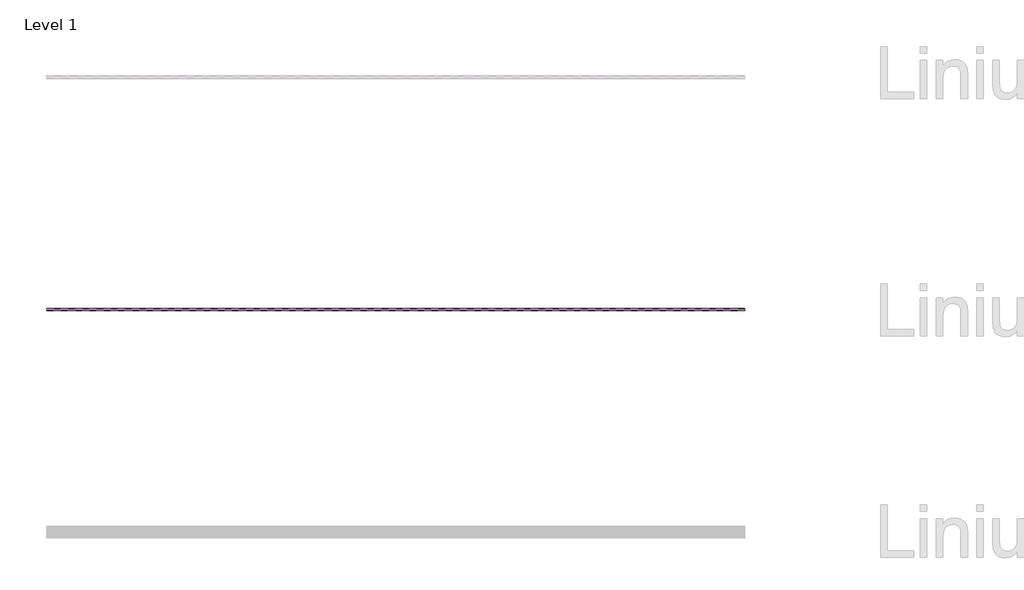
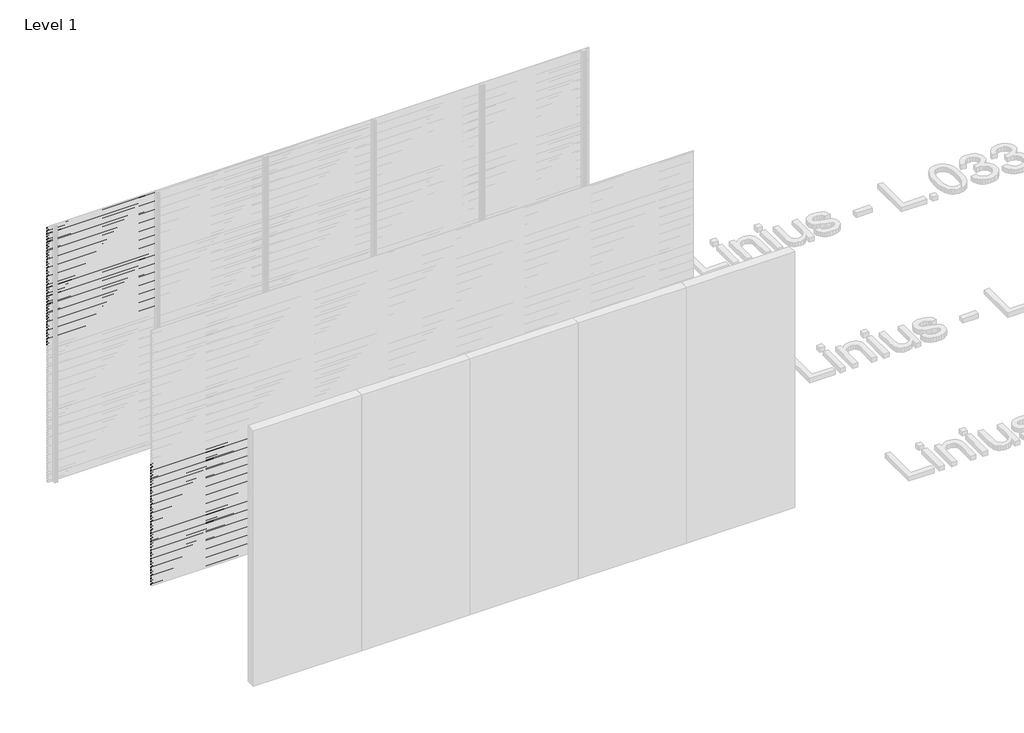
# One storey, part 74 of 507: 85 proxies.
"""IFC4 building model written with IfcOpenShell, lengths in millimetres."""

from ifc_helpers import new_model, si_unit, frame, origin, place, context, project, spatial, polyline, outline, extrude, element, save

model = new_model("IFC4")

# Units and contexts
model_context = context("Model", 3, world=origin())
ifc_project = project(units=[si_unit("LENGTHUNIT", "METRE", prefix="MILLI")], contexts=[model_context])

# Site, building, storey
site = spatial("IfcSite", under=ifc_project)
building = spatial("IfcBuilding", under=site)
storey = spatial("IfcBuildingStorey", under=building, Name="Level 1", Elevation=0.0)

# Proxies
placement = place(None, origin())
element("IfcBuildingElementProxy", 1, Name="Wall Sweeps", at=placement, inside=storey, context=model_context, shape_type="SweptSolid", body=[
    extrude(outline(polyline([(59003.4540136, 2973.0), (59003.4540136, 2959.5), (59002.2040136, 2960.2216933), (59002.2040136, 2972.2782281), (58983.0540136, 2983.3345698), (58983.0540136, 2997.0), (58984.3040136, 2997.0), (58984.3040136, 2984.0562577), (59003.4540136, 2973.0)])), frame((44966.6208097, 0.0, 0.0), z_axis=(1.0, 0.0, 0.0), x_axis=(0.0, 1.0, 0.0)), (0.0, 0.0, 1.0), 1200.0000002),
])
element("IfcBuildingElementProxy", 2, Name="Wall Sweeps", at=placement, inside=storey, context=model_context, shape_type="SweptSolid", body=[
    extrude(outline(polyline([(59003.4540136, 2939.7), (59003.4540136, 2926.2), (59002.2040136, 2926.9216933), (59002.2040136, 2938.9782281), (58983.0540136, 2950.0345698), (58983.0540136, 2963.7), (58984.3040136, 2963.7), (58984.3040136, 2950.7562577), (59003.4540136, 2939.7)])), frame((44966.6208097, 0.0, 0.0), z_axis=(1.0, 0.0, 0.0), x_axis=(0.0, 1.0, 0.0)), (0.0, 0.0, 1.0), 1200.0000002),
])
element("IfcBuildingElementProxy", 3, Name="Wall Sweeps", at=placement, inside=storey, context=model_context, shape_type="SweptSolid", body=[
    extrude(outline(polyline([(59003.4540136, 2906.4), (59003.4540136, 2892.9), (59002.2040136, 2893.6216933), (59002.2040136, 2905.6782281), (58983.0540136, 2916.7345698), (58983.0540136, 2930.4), (58984.3040136, 2930.4), (58984.3040136, 2917.4562577), (59003.4540136, 2906.4)])), frame((44966.6208097, 0.0, 0.0), z_axis=(1.0, 0.0, 0.0), x_axis=(0.0, 1.0, 0.0)), (0.0, 0.0, 1.0), 1200.0000002),
])
element("IfcBuildingElementProxy", 4, Name="Wall Sweeps", at=placement, inside=storey, context=model_context, shape_type="SweptSolid", body=[
    extrude(outline(polyline([(59003.4540136, 2873.1), (59003.4540136, 2859.6), (59002.2040136, 2860.3216933), (59002.2040136, 2872.3782281), (58983.0540136, 2883.4345698), (58983.0540136, 2897.1), (58984.3040136, 2897.1), (58984.3040136, 2884.1562577), (59003.4540136, 2873.1)])), frame((44966.6208097, 0.0, 0.0), z_axis=(1.0, 0.0, 0.0), x_axis=(0.0, 1.0, 0.0)), (0.0, 0.0, 1.0), 1200.0000002),
])
element("IfcBuildingElementProxy", 5, Name="Wall Sweeps", at=placement, inside=storey, context=model_context, shape_type="SweptSolid", body=[
    extrude(outline(polyline([(59003.4540136, 2839.8), (59003.4540136, 2826.3), (59002.2040136, 2827.0216933), (59002.2040136, 2839.0782281), (58983.0540136, 2850.1345698), (58983.0540136, 2863.8), (58984.3040136, 2863.8), (58984.3040136, 2850.8562577), (59003.4540136, 2839.8)])), frame((44966.6208097, 0.0, 0.0), z_axis=(1.0, 0.0, 0.0), x_axis=(0.0, 1.0, 0.0)), (0.0, 0.0, 1.0), 1200.0000002),
])
element("IfcBuildingElementProxy", 6, Name="Wall Sweeps", at=placement, inside=storey, context=model_context, shape_type="SweptSolid", body=[
    extrude(outline(polyline([(59003.4540136, 2806.5), (59003.4540136, 2793.0), (59002.2040136, 2793.7216933), (59002.2040136, 2805.7782281), (58983.0540136, 2816.8345698), (58983.0540136, 2830.5), (58984.3040136, 2830.5), (58984.3040136, 2817.5562577), (59003.4540136, 2806.5)])), frame((44966.6208097, 0.0, 0.0), z_axis=(1.0, 0.0, 0.0), x_axis=(0.0, 1.0, 0.0)), (0.0, 0.0, 1.0), 1200.0000002),
])
element("IfcBuildingElementProxy", 7, Name="Wall Sweeps", at=placement, inside=storey, context=model_context, shape_type="SweptSolid", body=[
    extrude(outline(polyline([(59003.4540136, 2773.2), (59003.4540136, 2759.7), (59002.2040136, 2760.4216933), (59002.2040136, 2772.4782281), (58983.0540136, 2783.5345698), (58983.0540136, 2797.2), (58984.3040136, 2797.2), (58984.3040136, 2784.2562577), (59003.4540136, 2773.2)])), frame((44966.6208097, 0.0, 0.0), z_axis=(1.0, 0.0, 0.0), x_axis=(0.0, 1.0, 0.0)), (0.0, 0.0, 1.0), 1200.0000002),
])
element("IfcBuildingElementProxy", 8, Name="Wall Sweeps", at=placement, inside=storey, context=model_context, shape_type="SweptSolid", body=[
    extrude(outline(polyline([(59003.4540136, 2739.9), (59003.4540136, 2726.4), (59002.2040136, 2727.1216933), (59002.2040136, 2739.1782281), (58983.0540136, 2750.2345698), (58983.0540136, 2763.9), (58984.3040136, 2763.9), (58984.3040136, 2750.9562577), (59003.4540136, 2739.9)])), frame((44966.6208097, 0.0, 0.0), z_axis=(1.0, 0.0, 0.0), x_axis=(0.0, 1.0, 0.0)), (0.0, 0.0, 1.0), 1200.0000002),
])
element("IfcBuildingElementProxy", 9, Name="Wall Sweeps", at=placement, inside=storey, context=model_context, shape_type="SweptSolid", body=[
    extrude(outline(polyline([(59003.4540136, 2706.6), (59003.4540136, 2693.1), (59002.2040136, 2693.8216933), (59002.2040136, 2705.8782281), (58983.0540136, 2716.9345698), (58983.0540136, 2730.6), (58984.3040136, 2730.6), (58984.3040136, 2717.6562577), (59003.4540136, 2706.6)])), frame((44966.6208097, 0.0, 0.0), z_axis=(1.0, 0.0, 0.0), x_axis=(0.0, 1.0, 0.0)), (0.0, 0.0, 1.0), 1200.0000002),
])
element("IfcBuildingElementProxy", 10, Name="Wall Sweeps", at=placement, inside=storey, context=model_context, shape_type="SweptSolid", body=[
    extrude(outline(polyline([(59003.4540136, 2673.3), (59003.4540136, 2659.8), (59002.2040136, 2660.5216933), (59002.2040136, 2672.5782281), (58983.0540136, 2683.6345698), (58983.0540136, 2697.3), (58984.3040136, 2697.3), (58984.3040136, 2684.3562577), (59003.4540136, 2673.3)])), frame((44966.6208097, 0.0, 0.0), z_axis=(1.0, 0.0, 0.0), x_axis=(0.0, 1.0, 0.0)), (0.0, 0.0, 1.0), 1200.0000002),
])
element("IfcBuildingElementProxy", 11, Name="Wall Sweeps", at=placement, inside=storey, context=model_context, shape_type="SweptSolid", body=[
    extrude(outline(polyline([(59003.4540136, 2640.0), (59003.4540136, 2626.5), (59002.2040136, 2627.2216933), (59002.2040136, 2639.2782281), (58983.0540136, 2650.3345698), (58983.0540136, 2664.0), (58984.3040136, 2664.0), (58984.3040136, 2651.0562577), (59003.4540136, 2640.0)])), frame((44966.6208097, 0.0, 0.0), z_axis=(1.0, 0.0, 0.0), x_axis=(0.0, 1.0, 0.0)), (0.0, 0.0, 1.0), 1200.0000002),
])
element("IfcBuildingElementProxy", 12, Name="Wall Sweeps", at=placement, inside=storey, context=model_context, shape_type="SweptSolid", body=[
    extrude(outline(polyline([(59003.4540136, 2606.7), (59003.4540136, 2593.2), (59002.2040136, 2593.9216933), (59002.2040136, 2605.9782281), (58983.0540136, 2617.0345698), (58983.0540136, 2630.7), (58984.3040136, 2630.7), (58984.3040136, 2617.7562577), (59003.4540136, 2606.7)])), frame((44966.6208097, 0.0, 0.0), z_axis=(1.0, 0.0, 0.0), x_axis=(0.0, 1.0, 0.0)), (0.0, 0.0, 1.0), 1200.0000002),
])
element("IfcBuildingElementProxy", 13, Name="Wall Sweeps", at=placement, inside=storey, context=model_context, shape_type="SweptSolid", body=[
    extrude(outline(polyline([(59003.4540136, 2573.4), (59003.4540136, 2559.9), (59002.2040136, 2560.6216933), (59002.2040136, 2572.6782281), (58983.0540136, 2583.7345698), (58983.0540136, 2597.4), (58984.3040136, 2597.4), (58984.3040136, 2584.4562577), (59003.4540136, 2573.4)])), frame((44966.6208097, 0.0, 0.0), z_axis=(1.0, 0.0, 0.0), x_axis=(0.0, 1.0, 0.0)), (0.0, 0.0, 1.0), 1200.0000002),
])
element("IfcBuildingElementProxy", 14, Name="Wall Sweeps", at=placement, inside=storey, context=model_context, shape_type="SweptSolid", body=[
    extrude(outline(polyline([(59003.4540136, 2540.1), (59003.4540136, 2526.6), (59002.2040136, 2527.3216933), (59002.2040136, 2539.3782281), (58983.0540136, 2550.4345698), (58983.0540136, 2564.1), (58984.3040136, 2564.1), (58984.3040136, 2551.1562577), (59003.4540136, 2540.1)])), frame((44966.6208097, 0.0, 0.0), z_axis=(1.0, 0.0, 0.0), x_axis=(0.0, 1.0, 0.0)), (0.0, 0.0, 1.0), 1200.0000002),
])
element("IfcBuildingElementProxy", 15, Name="Wall Sweeps", at=placement, inside=storey, context=model_context, shape_type="SweptSolid", body=[
    extrude(outline(polyline([(59003.4540136, 2506.8), (59003.4540136, 2493.3), (59002.2040136, 2494.0216933), (59002.2040136, 2506.0782281), (58983.0540136, 2517.1345698), (58983.0540136, 2530.8), (58984.3040136, 2530.8), (58984.3040136, 2517.8562577), (59003.4540136, 2506.8)])), frame((44966.6208097, 0.0, 0.0), z_axis=(1.0, 0.0, 0.0), x_axis=(0.0, 1.0, 0.0)), (0.0, 0.0, 1.0), 1200.0000002),
])
element("IfcBuildingElementProxy", 16, Name="Wall Sweeps", at=placement, inside=storey, context=model_context, shape_type="SweptSolid", body=[
    extrude(outline(polyline([(59003.4540136, 2473.5), (59003.4540136, 2460.0), (59002.2040136, 2460.7216933), (59002.2040136, 2472.7782281), (58983.0540136, 2483.8345698), (58983.0540136, 2497.5), (58984.3040136, 2497.5), (58984.3040136, 2484.5562577), (59003.4540136, 2473.5)])), frame((44966.6208097, 0.0, 0.0), z_axis=(1.0, 0.0, 0.0), x_axis=(0.0, 1.0, 0.0)), (0.0, 0.0, 1.0), 1200.0000002),
])
element("IfcBuildingElementProxy", 17, Name="Wall Sweeps", at=placement, inside=storey, context=model_context, shape_type="SweptSolid", body=[
    extrude(outline(polyline([(59003.4540136, 2440.2), (59003.4540136, 2426.7), (59002.2040136, 2427.4216933), (59002.2040136, 2439.4782281), (58983.0540136, 2450.5345698), (58983.0540136, 2464.2), (58984.3040136, 2464.2), (58984.3040136, 2451.2562577), (59003.4540136, 2440.2)])), frame((44966.6208097, 0.0, 0.0), z_axis=(1.0, 0.0, 0.0), x_axis=(0.0, 1.0, 0.0)), (0.0, 0.0, 1.0), 1200.0000002),
])
element("IfcBuildingElementProxy", 18, Name="Wall Sweeps", at=placement, inside=storey, context=model_context, shape_type="SweptSolid", body=[
    extrude(outline(polyline([(59003.4540136, 2406.9), (59003.4540136, 2393.4), (59002.2040136, 2394.1216933), (59002.2040136, 2406.1782281), (58983.0540136, 2417.2345698), (58983.0540136, 2430.9), (58984.3040136, 2430.9), (58984.3040136, 2417.9562577), (59003.4540136, 2406.9)])), frame((44966.6208097, 0.0, 0.0), z_axis=(1.0, 0.0, 0.0), x_axis=(0.0, 1.0, 0.0)), (0.0, 0.0, 1.0), 1200.0000002),
])
element("IfcBuildingElementProxy", 19, Name="Wall Sweeps", at=placement, inside=storey, context=model_context, shape_type="SweptSolid", body=[
    extrude(outline(polyline([(59003.4540136, 2373.6), (59003.4540136, 2360.1), (59002.2040136, 2360.8216933), (59002.2040136, 2372.8782281), (58983.0540136, 2383.9345698), (58983.0540136, 2397.6), (58984.3040136, 2397.6), (58984.3040136, 2384.6562577), (59003.4540136, 2373.6)])), frame((44966.6208097, 0.0, 0.0), z_axis=(1.0, 0.0, 0.0), x_axis=(0.0, 1.0, 0.0)), (0.0, 0.0, 1.0), 1200.0000002),
])
element("IfcBuildingElementProxy", 20, Name="Wall Sweeps", at=placement, inside=storey, context=model_context, shape_type="SweptSolid", body=[
    extrude(outline(polyline([(59003.4540136, 2340.3), (59003.4540136, 2326.8), (59002.2040136, 2327.5216933), (59002.2040136, 2339.5782281), (58983.0540136, 2350.6345698), (58983.0540136, 2364.3), (58984.3040136, 2364.3), (58984.3040136, 2351.3562577), (59003.4540136, 2340.3)])), frame((44966.6208097, 0.0, 0.0), z_axis=(1.0, 0.0, 0.0), x_axis=(0.0, 1.0, 0.0)), (0.0, 0.0, 1.0), 1200.0000002),
])
element("IfcBuildingElementProxy", 21, Name="Wall Sweeps", at=placement, inside=storey, context=model_context, shape_type="SweptSolid", body=[
    extrude(outline(polyline([(59003.4540136, 2307.0), (59003.4540136, 2293.5), (59002.2040136, 2294.2216933), (59002.2040136, 2306.2782281), (58983.0540136, 2317.3345698), (58983.0540136, 2331.0), (58984.3040136, 2331.0), (58984.3040136, 2318.0562577), (59003.4540136, 2307.0)])), frame((44966.6208097, 0.0, 0.0), z_axis=(1.0, 0.0, 0.0), x_axis=(0.0, 1.0, 0.0)), (0.0, 0.0, 1.0), 1200.0000002),
])
element("IfcBuildingElementProxy", 22, Name="Wall Sweeps", at=placement, inside=storey, context=model_context, shape_type="SweptSolid", body=[
    extrude(outline(polyline([(59003.4540136, 2273.7), (59003.4540136, 2260.2), (59002.2040136, 2260.9216933), (59002.2040136, 2272.9782281), (58983.0540136, 2284.0345698), (58983.0540136, 2297.7), (58984.3040136, 2297.7), (58984.3040136, 2284.7562577), (59003.4540136, 2273.7)])), frame((44966.6208097, 0.0, 0.0), z_axis=(1.0, 0.0, 0.0), x_axis=(0.0, 1.0, 0.0)), (0.0, 0.0, 1.0), 1200.0000002),
])
element("IfcBuildingElementProxy", 23, Name="Wall Sweeps", at=placement, inside=storey, context=model_context, shape_type="SweptSolid", body=[
    extrude(outline(polyline([(59003.4540136, 2240.4), (59003.4540136, 2226.9), (59002.2040136, 2227.6216933), (59002.2040136, 2239.6782281), (58983.0540136, 2250.7345698), (58983.0540136, 2264.4), (58984.3040136, 2264.4), (58984.3040136, 2251.4562577), (59003.4540136, 2240.4)])), frame((44966.6208097, 0.0, 0.0), z_axis=(1.0, 0.0, 0.0), x_axis=(0.0, 1.0, 0.0)), (0.0, 0.0, 1.0), 1200.0000002),
])
element("IfcBuildingElementProxy", 24, Name="Wall Sweeps", at=placement, inside=storey, context=model_context, shape_type="SweptSolid", body=[
    extrude(outline(polyline([(59003.4540136, 2207.1), (59003.4540136, 2193.6), (59002.2040136, 2194.3216933), (59002.2040136, 2206.3782281), (58983.0540136, 2217.4345698), (58983.0540136, 2231.1), (58984.3040136, 2231.1), (58984.3040136, 2218.1562577), (59003.4540136, 2207.1)])), frame((44966.6208097, 0.0, 0.0), z_axis=(1.0, 0.0, 0.0), x_axis=(0.0, 1.0, 0.0)), (0.0, 0.0, 1.0), 1200.0000002),
])
element("IfcBuildingElementProxy", 25, Name="Wall Sweeps", at=placement, inside=storey, context=model_context, shape_type="SweptSolid", body=[
    extrude(outline(polyline([(59003.4540136, 2173.8), (59003.4540136, 2160.3), (59002.2040136, 2161.0216933), (59002.2040136, 2173.0782281), (58983.0540136, 2184.1345698), (58983.0540136, 2197.8), (58984.3040136, 2197.8), (58984.3040136, 2184.8562577), (59003.4540136, 2173.8)])), frame((44966.6208097, 0.0, 0.0), z_axis=(1.0, 0.0, 0.0), x_axis=(0.0, 1.0, 0.0)), (0.0, 0.0, 1.0), 1200.0000002),
])
element("IfcBuildingElementProxy", 26, Name="Wall Sweeps", at=placement, inside=storey, context=model_context, shape_type="SweptSolid", body=[
    extrude(outline(polyline([(59003.4540136, 2140.5), (59003.4540136, 2127.0), (59002.2040136, 2127.7216933), (59002.2040136, 2139.7782281), (58983.0540136, 2150.8345698), (58983.0540136, 2164.5), (58984.3040136, 2164.5), (58984.3040136, 2151.5562577), (59003.4540136, 2140.5)])), frame((44966.6208097, 0.0, 0.0), z_axis=(1.0, 0.0, 0.0), x_axis=(0.0, 1.0, 0.0)), (0.0, 0.0, 1.0), 1200.0000002),
])
element("IfcBuildingElementProxy", 27, Name="Wall Sweeps", at=placement, inside=storey, context=model_context, shape_type="SweptSolid", body=[
    extrude(outline(polyline([(59003.4540136, 2107.2), (59003.4540136, 2093.7), (59002.2040136, 2094.4216933), (59002.2040136, 2106.4782281), (58983.0540136, 2117.5345698), (58983.0540136, 2131.2), (58984.3040136, 2131.2), (58984.3040136, 2118.2562577), (59003.4540136, 2107.2)])), frame((44966.6208097, 0.0, 0.0), z_axis=(1.0, 0.0, 0.0), x_axis=(0.0, 1.0, 0.0)), (0.0, 0.0, 1.0), 1200.0000002),
])
element("IfcBuildingElementProxy", 28, Name="Wall Sweeps", at=placement, inside=storey, context=model_context, shape_type="SweptSolid", body=[
    extrude(outline(polyline([(59003.4540136, 2073.9), (59003.4540136, 2060.4), (59002.2040136, 2061.1216933), (59002.2040136, 2073.1782281), (58983.0540136, 2084.2345698), (58983.0540136, 2097.9), (58984.3040136, 2097.9), (58984.3040136, 2084.9562577), (59003.4540136, 2073.9)])), frame((44966.6208097, 0.0, 0.0), z_axis=(1.0, 0.0, 0.0), x_axis=(0.0, 1.0, 0.0)), (0.0, 0.0, 1.0), 1200.0000002),
])
element("IfcBuildingElementProxy", 29, Name="Wall Sweeps", at=placement, inside=storey, context=model_context, shape_type="SweptSolid", body=[
    extrude(outline(polyline([(59003.4540136, 2040.6), (59003.4540136, 2027.1), (59002.2040136, 2027.8216933), (59002.2040136, 2039.8782281), (58983.0540136, 2050.9345698), (58983.0540136, 2064.6), (58984.3040136, 2064.6), (58984.3040136, 2051.6562577), (59003.4540136, 2040.6)])), frame((44966.6208097, 0.0, 0.0), z_axis=(1.0, 0.0, 0.0), x_axis=(0.0, 1.0, 0.0)), (0.0, 0.0, 1.0), 1200.0000002),
])
element("IfcBuildingElementProxy", 30, Name="Wall Sweeps", at=placement, inside=storey, context=model_context, shape_type="SweptSolid", body=[
    extrude(outline(polyline([(59003.4540136, 2007.3), (59003.4540136, 1993.8), (59002.2040136, 1994.5216933), (59002.2040136, 2006.5782281), (58983.0540136, 2017.6345698), (58983.0540136, 2031.3), (58984.3040136, 2031.3), (58984.3040136, 2018.3562577), (59003.4540136, 2007.3)])), frame((44966.6208097, 0.0, 0.0), z_axis=(1.0, 0.0, 0.0), x_axis=(0.0, 1.0, 0.0)), (0.0, 0.0, 1.0), 1200.0000002),
])
element("IfcBuildingElementProxy", 31, Name="Wall Sweeps", at=placement, inside=storey, context=model_context, shape_type="SweptSolid", body=[
    extrude(outline(polyline([(59003.4540136, 1974.0), (59003.4540136, 1960.5), (59002.2040136, 1961.2216933), (59002.2040136, 1973.2782281), (58983.0540136, 1984.3345698), (58983.0540136, 1998.0), (58984.3040136, 1998.0), (58984.3040136, 1985.0562577), (59003.4540136, 1974.0)])), frame((44966.6208097, 0.0, 0.0), z_axis=(1.0, 0.0, 0.0), x_axis=(0.0, 1.0, 0.0)), (0.0, 0.0, 1.0), 1200.0000002),
])
element("IfcBuildingElementProxy", 32, Name="Wall Sweeps", at=placement, inside=storey, context=model_context, shape_type="SweptSolid", body=[
    extrude(outline(polyline([(59003.4540136, 1940.7), (59003.4540136, 1927.2), (59002.2040136, 1927.9216933), (59002.2040136, 1939.9782281), (58983.0540136, 1951.0345698), (58983.0540136, 1964.7), (58984.3040136, 1964.7), (58984.3040136, 1951.7562577), (59003.4540136, 1940.7)])), frame((44966.6208097, 0.0, 0.0), z_axis=(1.0, 0.0, 0.0), x_axis=(0.0, 1.0, 0.0)), (0.0, 0.0, 1.0), 1200.0000002),
])
element("IfcBuildingElementProxy", 33, Name="Wall Sweeps", at=placement, inside=storey, context=model_context, shape_type="SweptSolid", body=[
    extrude(outline(polyline([(59003.4540136, 1907.4), (59003.4540136, 1893.9), (59002.2040136, 1894.6216933), (59002.2040136, 1906.6782281), (58983.0540136, 1917.7345698), (58983.0540136, 1931.4), (58984.3040136, 1931.4), (58984.3040136, 1918.4562577), (59003.4540136, 1907.4)])), frame((44966.6208097, 0.0, 0.0), z_axis=(1.0, 0.0, 0.0), x_axis=(0.0, 1.0, 0.0)), (0.0, 0.0, 1.0), 1200.0000002),
])
element("IfcBuildingElementProxy", 34, Name="Wall Sweeps", at=placement, inside=storey, context=model_context, shape_type="SweptSolid", body=[
    extrude(outline(polyline([(59003.4540136, 1874.1), (59003.4540136, 1860.6), (59002.2040136, 1861.3216933), (59002.2040136, 1873.3782281), (58983.0540136, 1884.4345698), (58983.0540136, 1898.1), (58984.3040136, 1898.1), (58984.3040136, 1885.1562577), (59003.4540136, 1874.1)])), frame((44966.6208097, 0.0, 0.0), z_axis=(1.0, 0.0, 0.0), x_axis=(0.0, 1.0, 0.0)), (0.0, 0.0, 1.0), 1200.0000002),
])
element("IfcBuildingElementProxy", 35, Name="Wall Sweeps", at=placement, inside=storey, context=model_context, shape_type="SweptSolid", body=[
    extrude(outline(polyline([(59003.4540136, 1840.8), (59003.4540136, 1827.3), (59002.2040136, 1828.0216933), (59002.2040136, 1840.0782281), (58983.0540136, 1851.1345698), (58983.0540136, 1864.8), (58984.3040136, 1864.8), (58984.3040136, 1851.8562577), (59003.4540136, 1840.8)])), frame((44966.6208097, 0.0, 0.0), z_axis=(1.0, 0.0, 0.0), x_axis=(0.0, 1.0, 0.0)), (0.0, 0.0, 1.0), 1200.0000002),
])
element("IfcBuildingElementProxy", 36, Name="Wall Sweeps", at=placement, inside=storey, context=model_context, shape_type="SweptSolid", body=[
    extrude(outline(polyline([(59003.4540136, 1807.5), (59003.4540136, 1794.0), (59002.2040136, 1794.7216933), (59002.2040136, 1806.7782281), (58983.0540136, 1817.8345698), (58983.0540136, 1831.5), (58984.3040136, 1831.5), (58984.3040136, 1818.5562577), (59003.4540136, 1807.5)])), frame((44966.6208097, 0.0, 0.0), z_axis=(1.0, 0.0, 0.0), x_axis=(0.0, 1.0, 0.0)), (0.0, 0.0, 1.0), 1200.0000002),
])
element("IfcBuildingElementProxy", 37, Name="Wall Sweeps", at=placement, inside=storey, context=model_context, shape_type="SweptSolid", body=[
    extrude(outline(polyline([(59003.4540136, 1774.2), (59003.4540136, 1760.7), (59002.2040136, 1761.4216933), (59002.2040136, 1773.4782281), (58983.0540136, 1784.5345698), (58983.0540136, 1798.2), (58984.3040136, 1798.2), (58984.3040136, 1785.2562577), (59003.4540136, 1774.2)])), frame((44966.6208097, 0.0, 0.0), z_axis=(1.0, 0.0, 0.0), x_axis=(0.0, 1.0, 0.0)), (0.0, 0.0, 1.0), 1200.0000002),
])
element("IfcBuildingElementProxy", 38, Name="Wall Sweeps", at=placement, inside=storey, context=model_context, shape_type="SweptSolid", body=[
    extrude(outline(polyline([(59003.4540136, 1740.9), (59003.4540136, 1727.4), (59002.2040136, 1728.1216933), (59002.2040136, 1740.1782281), (58983.0540136, 1751.2345698), (58983.0540136, 1764.9), (58984.3040136, 1764.9), (58984.3040136, 1751.9562577), (59003.4540136, 1740.9)])), frame((44966.6208097, 0.0, 0.0), z_axis=(1.0, 0.0, 0.0), x_axis=(0.0, 1.0, 0.0)), (0.0, 0.0, 1.0), 1200.0000002),
])
element("IfcBuildingElementProxy", 39, Name="Wall Sweeps", at=placement, inside=storey, context=model_context, shape_type="SweptSolid", body=[
    extrude(outline(polyline([(59003.4540136, 1707.6), (59003.4540136, 1694.1), (59002.2040136, 1694.8216933), (59002.2040136, 1706.8782281), (58983.0540136, 1717.9345698), (58983.0540136, 1731.6), (58984.3040136, 1731.6), (58984.3040136, 1718.6562577), (59003.4540136, 1707.6)])), frame((44966.6208097, 0.0, 0.0), z_axis=(1.0, 0.0, 0.0), x_axis=(0.0, 1.0, 0.0)), (0.0, 0.0, 1.0), 1200.0000002),
])
element("IfcBuildingElementProxy", 40, Name="Wall Sweeps", at=placement, inside=storey, context=model_context, shape_type="SweptSolid", body=[
    extrude(outline(polyline([(59003.4540136, 1674.3), (59003.4540136, 1660.8), (59002.2040136, 1661.5216933), (59002.2040136, 1673.5782281), (58983.0540136, 1684.6345698), (58983.0540136, 1698.3), (58984.3040136, 1698.3), (58984.3040136, 1685.3562577), (59003.4540136, 1674.3)])), frame((44966.6208097, 0.0, 0.0), z_axis=(1.0, 0.0, 0.0), x_axis=(0.0, 1.0, 0.0)), (0.0, 0.0, 1.0), 1200.0000002),
])
element("IfcBuildingElementProxy", 41, Name="Wall Sweeps", at=placement, inside=storey, context=model_context, shape_type="SweptSolid", body=[
    extrude(outline(polyline([(59003.4540136, 1641.0), (59003.4540136, 1627.5), (59002.2040136, 1628.2216933), (59002.2040136, 1640.2782281), (58983.0540136, 1651.3345698), (58983.0540136, 1665.0), (58984.3040136, 1665.0), (58984.3040136, 1652.0562577), (59003.4540136, 1641.0)])), frame((44966.6208097, 0.0, 0.0), z_axis=(1.0, 0.0, 0.0), x_axis=(0.0, 1.0, 0.0)), (0.0, 0.0, 1.0), 1200.0000002),
])
element("IfcBuildingElementProxy", 42, Name="Wall Sweeps", at=placement, inside=storey, context=model_context, shape_type="SweptSolid", body=[
    extrude(outline(polyline([(59003.4540136, 1607.7), (59003.4540136, 1594.2), (59002.2040136, 1594.9216933), (59002.2040136, 1606.9782281), (58983.0540136, 1618.0345698), (58983.0540136, 1631.7), (58984.3040136, 1631.7), (58984.3040136, 1618.7562577), (59003.4540136, 1607.7)])), frame((44966.6208097, 0.0, 0.0), z_axis=(1.0, 0.0, 0.0), x_axis=(0.0, 1.0, 0.0)), (0.0, 0.0, 1.0), 1200.0000002),
])
element("IfcBuildingElementProxy", 43, Name="Wall Sweeps", at=placement, inside=storey, context=model_context, shape_type="SweptSolid", body=[
    extrude(outline(polyline([(57003.4540136, 1407.9), (57003.4540136, 1394.4), (57002.2040136, 1395.1216933), (57002.2040136, 1407.1782281), (56983.0540136, 1418.2345698), (56983.0540136, 1431.9), (56984.3040136, 1431.9), (56984.3040136, 1418.9562577), (57003.4540136, 1407.9)])), frame((44966.6208097, 0.0, 0.0), z_axis=(1.0, 0.0, 0.0), x_axis=(0.0, 1.0, 0.0)), (0.0, 0.0, 1.0), 6000.0),
])
element("IfcBuildingElementProxy", 44, Name="Wall Sweeps", at=placement, inside=storey, context=model_context, shape_type="SweptSolid", body=[
    extrude(outline(polyline([(57003.4540136, 1374.6), (57003.4540136, 1361.1), (57002.2040136, 1361.8216933), (57002.2040136, 1373.8782281), (56983.0540136, 1384.9345698), (56983.0540136, 1398.6), (56984.3040136, 1398.6), (56984.3040136, 1385.6562577), (57003.4540136, 1374.6)])), frame((44966.6208097, 0.0, 0.0), z_axis=(1.0, 0.0, 0.0), x_axis=(0.0, 1.0, 0.0)), (0.0, 0.0, 1.0), 6000.0),
])
element("IfcBuildingElementProxy", 45, Name="Wall Sweeps", at=placement, inside=storey, context=model_context, shape_type="SweptSolid", body=[
    extrude(outline(polyline([(57003.4540136, 1341.3), (57003.4540136, 1327.8), (57002.2040136, 1328.5216933), (57002.2040136, 1340.5782281), (56983.0540136, 1351.6345698), (56983.0540136, 1365.3), (56984.3040136, 1365.3), (56984.3040136, 1352.3562577), (57003.4540136, 1341.3)])), frame((44966.6208097, 0.0, 0.0), z_axis=(1.0, 0.0, 0.0), x_axis=(0.0, 1.0, 0.0)), (0.0, 0.0, 1.0), 6000.0),
])
element("IfcBuildingElementProxy", 46, Name="Wall Sweeps", at=placement, inside=storey, context=model_context, shape_type="SweptSolid", body=[
    extrude(outline(polyline([(57003.4540136, 1308.0), (57003.4540136, 1294.5), (57002.2040136, 1295.2216933), (57002.2040136, 1307.2782281), (56983.0540136, 1318.3345698), (56983.0540136, 1332.0), (56984.3040136, 1332.0), (56984.3040136, 1319.0562577), (57003.4540136, 1308.0)])), frame((44966.6208097, 0.0, 0.0), z_axis=(1.0, 0.0, 0.0), x_axis=(0.0, 1.0, 0.0)), (0.0, 0.0, 1.0), 6000.0),
])
element("IfcBuildingElementProxy", 47, Name="Wall Sweeps", at=placement, inside=storey, context=model_context, shape_type="SweptSolid", body=[
    extrude(outline(polyline([(57003.4540136, 1274.7), (57003.4540136, 1261.2), (57002.2040136, 1261.9216933), (57002.2040136, 1273.9782281), (56983.0540136, 1285.0345698), (56983.0540136, 1298.7), (56984.3040136, 1298.7), (56984.3040136, 1285.7562577), (57003.4540136, 1274.7)])), frame((44966.6208097, 0.0, 0.0), z_axis=(1.0, 0.0, 0.0), x_axis=(0.0, 1.0, 0.0)), (0.0, 0.0, 1.0), 6000.0),
])
element("IfcBuildingElementProxy", 48, Name="Wall Sweeps", at=placement, inside=storey, context=model_context, shape_type="SweptSolid", body=[
    extrude(outline(polyline([(57003.4540136, 1241.4), (57003.4540136, 1227.9), (57002.2040136, 1228.6216933), (57002.2040136, 1240.6782281), (56983.0540136, 1251.7345698), (56983.0540136, 1265.4), (56984.3040136, 1265.4), (56984.3040136, 1252.4562577), (57003.4540136, 1241.4)])), frame((44966.6208097, 0.0, 0.0), z_axis=(1.0, 0.0, 0.0), x_axis=(0.0, 1.0, 0.0)), (0.0, 0.0, 1.0), 6000.0),
])
element("IfcBuildingElementProxy", 49, Name="Wall Sweeps", at=placement, inside=storey, context=model_context, shape_type="SweptSolid", body=[
    extrude(outline(polyline([(57003.4540136, 1208.1), (57003.4540136, 1194.6), (57002.2040136, 1195.3216933), (57002.2040136, 1207.3782281), (56983.0540136, 1218.4345698), (56983.0540136, 1232.1), (56984.3040136, 1232.1), (56984.3040136, 1219.1562577), (57003.4540136, 1208.1)])), frame((44966.6208097, 0.0, 0.0), z_axis=(1.0, 0.0, 0.0), x_axis=(0.0, 1.0, 0.0)), (0.0, 0.0, 1.0), 6000.0),
])
element("IfcBuildingElementProxy", 50, Name="Wall Sweeps", at=placement, inside=storey, context=model_context, shape_type="SweptSolid", body=[
    extrude(outline(polyline([(57003.4540136, 1174.8), (57003.4540136, 1161.3), (57002.2040136, 1162.0216933), (57002.2040136, 1174.0782281), (56983.0540136, 1185.1345698), (56983.0540136, 1198.8), (56984.3040136, 1198.8), (56984.3040136, 1185.8562577), (57003.4540136, 1174.8)])), frame((44966.6208097, 0.0, 0.0), z_axis=(1.0, 0.0, 0.0), x_axis=(0.0, 1.0, 0.0)), (0.0, 0.0, 1.0), 6000.0),
])
element("IfcBuildingElementProxy", 51, Name="Wall Sweeps", at=placement, inside=storey, context=model_context, shape_type="SweptSolid", body=[
    extrude(outline(polyline([(57003.4540136, 1141.5), (57003.4540136, 1128.0), (57002.2040136, 1128.7216933), (57002.2040136, 1140.7782281), (56983.0540136, 1151.8345698), (56983.0540136, 1165.5), (56984.3040136, 1165.5), (56984.3040136, 1152.5562577), (57003.4540136, 1141.5)])), frame((44966.6208097, 0.0, 0.0), z_axis=(1.0, 0.0, 0.0), x_axis=(0.0, 1.0, 0.0)), (0.0, 0.0, 1.0), 6000.0),
])
element("IfcBuildingElementProxy", 52, Name="Wall Sweeps", at=placement, inside=storey, context=model_context, shape_type="SweptSolid", body=[
    extrude(outline(polyline([(57003.4540136, 1108.2), (57003.4540136, 1094.7), (57002.2040136, 1095.4216933), (57002.2040136, 1107.4782281), (56983.0540136, 1118.5345698), (56983.0540136, 1132.2), (56984.3040136, 1132.2), (56984.3040136, 1119.2562577), (57003.4540136, 1108.2)])), frame((44966.6208097, 0.0, 0.0), z_axis=(1.0, 0.0, 0.0), x_axis=(0.0, 1.0, 0.0)), (0.0, 0.0, 1.0), 6000.0),
])
element("IfcBuildingElementProxy", 53, Name="Wall Sweeps", at=placement, inside=storey, context=model_context, shape_type="SweptSolid", body=[
    extrude(outline(polyline([(57003.4540136, 1074.9), (57003.4540136, 1061.4), (57002.2040136, 1062.1216933), (57002.2040136, 1074.1782281), (56983.0540136, 1085.2345698), (56983.0540136, 1098.9), (56984.3040136, 1098.9), (56984.3040136, 1085.9562577), (57003.4540136, 1074.9)])), frame((44966.6208097, 0.0, 0.0), z_axis=(1.0, 0.0, 0.0), x_axis=(0.0, 1.0, 0.0)), (0.0, 0.0, 1.0), 6000.0),
])
element("IfcBuildingElementProxy", 54, Name="Wall Sweeps", at=placement, inside=storey, context=model_context, shape_type="SweptSolid", body=[
    extrude(outline(polyline([(57003.4540136, 1041.6), (57003.4540136, 1028.1), (57002.2040136, 1028.8216933), (57002.2040136, 1040.8782281), (56983.0540136, 1051.9345698), (56983.0540136, 1065.6), (56984.3040136, 1065.6), (56984.3040136, 1052.6562577), (57003.4540136, 1041.6)])), frame((44966.6208097, 0.0, 0.0), z_axis=(1.0, 0.0, 0.0), x_axis=(0.0, 1.0, 0.0)), (0.0, 0.0, 1.0), 6000.0),
])
element("IfcBuildingElementProxy", 55, Name="Wall Sweeps", at=placement, inside=storey, context=model_context, shape_type="SweptSolid", body=[
    extrude(outline(polyline([(57003.4540136, 1008.3), (57003.4540136, 994.8), (57002.2040136, 995.5216933), (57002.2040136, 1007.5782281), (56983.0540136, 1018.6345698), (56983.0540136, 1032.3), (56984.3040136, 1032.3), (56984.3040136, 1019.3562577), (57003.4540136, 1008.3)])), frame((44966.6208097, 0.0, 0.0), z_axis=(1.0, 0.0, 0.0), x_axis=(0.0, 1.0, 0.0)), (0.0, 0.0, 1.0), 6000.0),
])
element("IfcBuildingElementProxy", 56, Name="Wall Sweeps", at=placement, inside=storey, context=model_context, shape_type="SweptSolid", body=[
    extrude(outline(polyline([(57003.4540136, 975.0), (57003.4540136, 961.5), (57002.2040136, 962.2216933), (57002.2040136, 974.2782281), (56983.0540136, 985.3345698), (56983.0540136, 999.0), (56984.3040136, 999.0), (56984.3040136, 986.0562577), (57003.4540136, 975.0)])), frame((44966.6208097, 0.0, 0.0), z_axis=(1.0, 0.0, 0.0), x_axis=(0.0, 1.0, 0.0)), (0.0, 0.0, 1.0), 6000.0),
])
element("IfcBuildingElementProxy", 57, Name="Wall Sweeps", at=placement, inside=storey, context=model_context, shape_type="SweptSolid", body=[
    extrude(outline(polyline([(57003.4540136, 941.7), (57003.4540136, 928.2), (57002.2040136, 928.9216933), (57002.2040136, 940.9782281), (56983.0540136, 952.0345698), (56983.0540136, 965.7), (56984.3040136, 965.7), (56984.3040136, 952.7562577), (57003.4540136, 941.7)])), frame((44966.6208097, 0.0, 0.0), z_axis=(1.0, 0.0, 0.0), x_axis=(0.0, 1.0, 0.0)), (0.0, 0.0, 1.0), 6000.0),
])
element("IfcBuildingElementProxy", 58, Name="Wall Sweeps", at=placement, inside=storey, context=model_context, shape_type="SweptSolid", body=[
    extrude(outline(polyline([(57003.4540136, 908.4), (57003.4540136, 894.9), (57002.2040136, 895.6216933), (57002.2040136, 907.6782281), (56983.0540136, 918.7345698), (56983.0540136, 932.4), (56984.3040136, 932.4), (56984.3040136, 919.4562577), (57003.4540136, 908.4)])), frame((44966.6208097, 0.0, 0.0), z_axis=(1.0, 0.0, 0.0), x_axis=(0.0, 1.0, 0.0)), (0.0, 0.0, 1.0), 6000.0),
])
element("IfcBuildingElementProxy", 59, Name="Wall Sweeps", at=placement, inside=storey, context=model_context, shape_type="SweptSolid", body=[
    extrude(outline(polyline([(57003.4540136, 875.1), (57003.4540136, 861.6), (57002.2040136, 862.3216933), (57002.2040136, 874.3782281), (56983.0540136, 885.4345698), (56983.0540136, 899.1), (56984.3040136, 899.1), (56984.3040136, 886.1562577), (57003.4540136, 875.1)])), frame((44966.6208097, 0.0, 0.0), z_axis=(1.0, 0.0, 0.0), x_axis=(0.0, 1.0, 0.0)), (0.0, 0.0, 1.0), 6000.0),
])
element("IfcBuildingElementProxy", 60, Name="Wall Sweeps", at=placement, inside=storey, context=model_context, shape_type="SweptSolid", body=[
    extrude(outline(polyline([(57003.4540136, 841.8), (57003.4540136, 828.3), (57002.2040136, 829.0216933), (57002.2040136, 841.0782281), (56983.0540136, 852.1345698), (56983.0540136, 865.8), (56984.3040136, 865.8), (56984.3040136, 852.8562577), (57003.4540136, 841.8)])), frame((44966.6208097, 0.0, 0.0), z_axis=(1.0, 0.0, 0.0), x_axis=(0.0, 1.0, 0.0)), (0.0, 0.0, 1.0), 6000.0),
])
element("IfcBuildingElementProxy", 61, Name="Wall Sweeps", at=placement, inside=storey, context=model_context, shape_type="SweptSolid", body=[
    extrude(outline(polyline([(57003.4540136, 808.5), (57003.4540136, 795.0), (57002.2040136, 795.7216933), (57002.2040136, 807.7782281), (56983.0540136, 818.8345698), (56983.0540136, 832.5), (56984.3040136, 832.5), (56984.3040136, 819.5562577), (57003.4540136, 808.5)])), frame((44966.6208097, 0.0, 0.0), z_axis=(1.0, 0.0, 0.0), x_axis=(0.0, 1.0, 0.0)), (0.0, 0.0, 1.0), 6000.0),
])
element("IfcBuildingElementProxy", 62, Name="Wall Sweeps", at=placement, inside=storey, context=model_context, shape_type="SweptSolid", body=[
    extrude(outline(polyline([(57003.4540136, 775.2), (57003.4540136, 761.7), (57002.2040136, 762.4216933), (57002.2040136, 774.4782281), (56983.0540136, 785.5345698), (56983.0540136, 799.2), (56984.3040136, 799.2), (56984.3040136, 786.2562577), (57003.4540136, 775.2)])), frame((44966.6208097, 0.0, 0.0), z_axis=(1.0, 0.0, 0.0), x_axis=(0.0, 1.0, 0.0)), (0.0, 0.0, 1.0), 6000.0),
])
element("IfcBuildingElementProxy", 63, Name="Wall Sweeps", at=placement, inside=storey, context=model_context, shape_type="SweptSolid", body=[
    extrude(outline(polyline([(57003.4540136, 741.9), (57003.4540136, 728.4), (57002.2040136, 729.1216933), (57002.2040136, 741.1782281), (56983.0540136, 752.2345698), (56983.0540136, 765.9), (56984.3040136, 765.9), (56984.3040136, 752.9562577), (57003.4540136, 741.9)])), frame((44966.6208097, 0.0, 0.0), z_axis=(1.0, 0.0, 0.0), x_axis=(0.0, 1.0, 0.0)), (0.0, 0.0, 1.0), 6000.0),
])
element("IfcBuildingElementProxy", 64, Name="Wall Sweeps", at=placement, inside=storey, context=model_context, shape_type="SweptSolid", body=[
    extrude(outline(polyline([(57003.4540136, 708.6), (57003.4540136, 695.1), (57002.2040136, 695.8216933), (57002.2040136, 707.8782281), (56983.0540136, 718.9345698), (56983.0540136, 732.6), (56984.3040136, 732.6), (56984.3040136, 719.6562577), (57003.4540136, 708.6)])), frame((44966.6208097, 0.0, 0.0), z_axis=(1.0, 0.0, 0.0), x_axis=(0.0, 1.0, 0.0)), (0.0, 0.0, 1.0), 6000.0),
])
element("IfcBuildingElementProxy", 65, Name="Wall Sweeps", at=placement, inside=storey, context=model_context, shape_type="SweptSolid", body=[
    extrude(outline(polyline([(57003.4540136, 675.3), (57003.4540136, 661.8), (57002.2040136, 662.5216933), (57002.2040136, 674.5782281), (56983.0540136, 685.6345698), (56983.0540136, 699.3), (56984.3040136, 699.3), (56984.3040136, 686.3562577), (57003.4540136, 675.3)])), frame((44966.6208097, 0.0, 0.0), z_axis=(1.0, 0.0, 0.0), x_axis=(0.0, 1.0, 0.0)), (0.0, 0.0, 1.0), 6000.0),
])
element("IfcBuildingElementProxy", 66, Name="Wall Sweeps", at=placement, inside=storey, context=model_context, shape_type="SweptSolid", body=[
    extrude(outline(polyline([(57003.4540136, 642.0), (57003.4540136, 628.5), (57002.2040136, 629.2216933), (57002.2040136, 641.2782281), (56983.0540136, 652.3345698), (56983.0540136, 666.0), (56984.3040136, 666.0), (56984.3040136, 653.0562577), (57003.4540136, 642.0)])), frame((44966.6208097, 0.0, 0.0), z_axis=(1.0, 0.0, 0.0), x_axis=(0.0, 1.0, 0.0)), (0.0, 0.0, 1.0), 6000.0),
])
element("IfcBuildingElementProxy", 67, Name="Wall Sweeps", at=placement, inside=storey, context=model_context, shape_type="SweptSolid", body=[
    extrude(outline(polyline([(57003.4540136, 608.7), (57003.4540136, 595.2), (57002.2040136, 595.9216933), (57002.2040136, 607.9782281), (56983.0540136, 619.0345698), (56983.0540136, 632.7), (56984.3040136, 632.7), (56984.3040136, 619.7562577), (57003.4540136, 608.7)])), frame((44966.6208097, 0.0, 0.0), z_axis=(1.0, 0.0, 0.0), x_axis=(0.0, 1.0, 0.0)), (0.0, 0.0, 1.0), 6000.0),
])
element("IfcBuildingElementProxy", 68, Name="Wall Sweeps", at=placement, inside=storey, context=model_context, shape_type="SweptSolid", body=[
    extrude(outline(polyline([(57003.4540136, 575.4), (57003.4540136, 561.9), (57002.2040136, 562.6216933), (57002.2040136, 574.6782281), (56983.0540136, 585.7345698), (56983.0540136, 599.4), (56984.3040136, 599.4), (56984.3040136, 586.4562577), (57003.4540136, 575.4)])), frame((44966.6208097, 0.0, 0.0), z_axis=(1.0, 0.0, 0.0), x_axis=(0.0, 1.0, 0.0)), (0.0, 0.0, 1.0), 6000.0),
])
element("IfcBuildingElementProxy", 69, Name="Wall Sweeps", at=placement, inside=storey, context=model_context, shape_type="SweptSolid", body=[
    extrude(outline(polyline([(57003.4540136, 542.1), (57003.4540136, 528.6), (57002.2040136, 529.3216933), (57002.2040136, 541.3782281), (56983.0540136, 552.4345698), (56983.0540136, 566.1), (56984.3040136, 566.1), (56984.3040136, 553.1562577), (57003.4540136, 542.1)])), frame((44966.6208097, 0.0, 0.0), z_axis=(1.0, 0.0, 0.0), x_axis=(0.0, 1.0, 0.0)), (0.0, 0.0, 1.0), 6000.0),
])
element("IfcBuildingElementProxy", 70, Name="Wall Sweeps", at=placement, inside=storey, context=model_context, shape_type="SweptSolid", body=[
    extrude(outline(polyline([(57003.4540136, 508.8), (57003.4540136, 495.3), (57002.2040136, 496.0216933), (57002.2040136, 508.0782281), (56983.0540136, 519.1345698), (56983.0540136, 532.8), (56984.3040136, 532.8), (56984.3040136, 519.8562577), (57003.4540136, 508.8)])), frame((44966.6208097, 0.0, 0.0), z_axis=(1.0, 0.0, 0.0), x_axis=(0.0, 1.0, 0.0)), (0.0, 0.0, 1.0), 6000.0),
])
element("IfcBuildingElementProxy", 71, Name="Wall Sweeps", at=placement, inside=storey, context=model_context, shape_type="SweptSolid", body=[
    extrude(outline(polyline([(57003.4540136, 475.5), (57003.4540136, 462.0), (57002.2040136, 462.7216933), (57002.2040136, 474.7782281), (56983.0540136, 485.8345698), (56983.0540136, 499.5), (56984.3040136, 499.5), (56984.3040136, 486.5562577), (57003.4540136, 475.5)])), frame((44966.6208097, 0.0, 0.0), z_axis=(1.0, 0.0, 0.0), x_axis=(0.0, 1.0, 0.0)), (0.0, 0.0, 1.0), 6000.0),
])
element("IfcBuildingElementProxy", 72, Name="Wall Sweeps", at=placement, inside=storey, context=model_context, shape_type="SweptSolid", body=[
    extrude(outline(polyline([(57003.4540136, 442.2), (57003.4540136, 428.7), (57002.2040136, 429.4216933), (57002.2040136, 441.4782281), (56983.0540136, 452.5345698), (56983.0540136, 466.2), (56984.3040136, 466.2), (56984.3040136, 453.2562577), (57003.4540136, 442.2)])), frame((44966.6208097, 0.0, 0.0), z_axis=(1.0, 0.0, 0.0), x_axis=(0.0, 1.0, 0.0)), (0.0, 0.0, 1.0), 6000.0),
])
element("IfcBuildingElementProxy", 73, Name="Wall Sweeps", at=placement, inside=storey, context=model_context, shape_type="SweptSolid", body=[
    extrude(outline(polyline([(57003.4540136, 408.9), (57003.4540136, 395.4), (57002.2040136, 396.1216933), (57002.2040136, 408.1782281), (56983.0540136, 419.2345698), (56983.0540136, 432.9), (56984.3040136, 432.9), (56984.3040136, 419.9562577), (57003.4540136, 408.9)])), frame((44966.6208097, 0.0, 0.0), z_axis=(1.0, 0.0, 0.0), x_axis=(0.0, 1.0, 0.0)), (0.0, 0.0, 1.0), 6000.0),
])
element("IfcBuildingElementProxy", 74, Name="Wall Sweeps", at=placement, inside=storey, context=model_context, shape_type="SweptSolid", body=[
    extrude(outline(polyline([(57003.4540136, 375.6), (57003.4540136, 362.1), (57002.2040136, 362.8216933), (57002.2040136, 374.8782281), (56983.0540136, 385.9345698), (56983.0540136, 399.6), (56984.3040136, 399.6), (56984.3040136, 386.6562577), (57003.4540136, 375.6)])), frame((44966.6208097, 0.0, 0.0), z_axis=(1.0, 0.0, 0.0), x_axis=(0.0, 1.0, 0.0)), (0.0, 0.0, 1.0), 6000.0),
])
element("IfcBuildingElementProxy", 75, Name="Wall Sweeps", at=placement, inside=storey, context=model_context, shape_type="SweptSolid", body=[
    extrude(outline(polyline([(57003.4540136, 342.3), (57003.4540136, 328.8), (57002.2040136, 329.5216933), (57002.2040136, 341.5782281), (56983.0540136, 352.6345698), (56983.0540136, 366.3), (56984.3040136, 366.3), (56984.3040136, 353.3562577), (57003.4540136, 342.3)])), frame((44966.6208097, 0.0, 0.0), z_axis=(1.0, 0.0, 0.0), x_axis=(0.0, 1.0, 0.0)), (0.0, 0.0, 1.0), 6000.0),
])
element("IfcBuildingElementProxy", 76, Name="Wall Sweeps", at=placement, inside=storey, context=model_context, shape_type="SweptSolid", body=[
    extrude(outline(polyline([(57003.4540136, 309.0), (57003.4540136, 295.5), (57002.2040136, 296.2216933), (57002.2040136, 308.2782281), (56983.0540136, 319.3345698), (56983.0540136, 333.0), (56984.3040136, 333.0), (56984.3040136, 320.0562577), (57003.4540136, 309.0)])), frame((44966.6208097, 0.0, 0.0), z_axis=(1.0, 0.0, 0.0), x_axis=(0.0, 1.0, 0.0)), (0.0, 0.0, 1.0), 6000.0),
])
element("IfcBuildingElementProxy", 77, Name="Wall Sweeps", at=placement, inside=storey, context=model_context, shape_type="SweptSolid", body=[
    extrude(outline(polyline([(57003.4540136, 275.7), (57003.4540136, 262.2), (57002.2040136, 262.9216933), (57002.2040136, 274.9782281), (56983.0540136, 286.0345698), (56983.0540136, 299.7), (56984.3040136, 299.7), (56984.3040136, 286.7562577), (57003.4540136, 275.7)])), frame((44966.6208097, 0.0, 0.0), z_axis=(1.0, 0.0, 0.0), x_axis=(0.0, 1.0, 0.0)), (0.0, 0.0, 1.0), 6000.0),
])
element("IfcBuildingElementProxy", 78, Name="Wall Sweeps", at=placement, inside=storey, context=model_context, shape_type="SweptSolid", body=[
    extrude(outline(polyline([(57003.4540136, 242.4), (57003.4540136, 228.9), (57002.2040136, 229.6216933), (57002.2040136, 241.6782281), (56983.0540136, 252.7345698), (56983.0540136, 266.4), (56984.3040136, 266.4), (56984.3040136, 253.4562577), (57003.4540136, 242.4)])), frame((44966.6208097, 0.0, 0.0), z_axis=(1.0, 0.0, 0.0), x_axis=(0.0, 1.0, 0.0)), (0.0, 0.0, 1.0), 6000.0),
])
element("IfcBuildingElementProxy", 79, Name="Wall Sweeps", at=placement, inside=storey, context=model_context, shape_type="SweptSolid", body=[
    extrude(outline(polyline([(57003.4540136, 209.1), (57003.4540136, 195.6), (57002.2040136, 196.3216933), (57002.2040136, 208.3782281), (56983.0540136, 219.4345698), (56983.0540136, 233.1), (56984.3040136, 233.1), (56984.3040136, 220.1562577), (57003.4540136, 209.1)])), frame((44966.6208097, 0.0, 0.0), z_axis=(1.0, 0.0, 0.0), x_axis=(0.0, 1.0, 0.0)), (0.0, 0.0, 1.0), 6000.0),
])
element("IfcBuildingElementProxy", 80, Name="Wall Sweeps", at=placement, inside=storey, context=model_context, shape_type="SweptSolid", body=[
    extrude(outline(polyline([(57003.4540136, 175.8), (57003.4540136, 162.3), (57002.2040136, 163.0216933), (57002.2040136, 175.0782281), (56983.0540136, 186.1345698), (56983.0540136, 199.8), (56984.3040136, 199.8), (56984.3040136, 186.8562577), (57003.4540136, 175.8)])), frame((44966.6208097, 0.0, 0.0), z_axis=(1.0, 0.0, 0.0), x_axis=(0.0, 1.0, 0.0)), (0.0, 0.0, 1.0), 6000.0),
])
element("IfcBuildingElementProxy", 81, Name="Wall Sweeps", at=placement, inside=storey, context=model_context, shape_type="SweptSolid", body=[
    extrude(outline(polyline([(57003.4540136, 142.5), (57003.4540136, 129.0), (57002.2040136, 129.7216933), (57002.2040136, 141.7782281), (56983.0540136, 152.8345698), (56983.0540136, 166.5), (56984.3040136, 166.5), (56984.3040136, 153.5562577), (57003.4540136, 142.5)])), frame((44966.6208097, 0.0, 0.0), z_axis=(1.0, 0.0, 0.0), x_axis=(0.0, 1.0, 0.0)), (0.0, 0.0, 1.0), 6000.0),
])
element("IfcBuildingElementProxy", 82, Name="Wall Sweeps", at=placement, inside=storey, context=model_context, shape_type="SweptSolid", body=[
    extrude(outline(polyline([(57003.4540136, 109.2), (57003.4540136, 95.7), (57002.2040136, 96.4216933), (57002.2040136, 108.4782281), (56983.0540136, 119.5345698), (56983.0540136, 133.2), (56984.3040136, 133.2), (56984.3040136, 120.2562577), (57003.4540136, 109.2)])), frame((44966.6208097, 0.0, 0.0), z_axis=(1.0, 0.0, 0.0), x_axis=(0.0, 1.0, 0.0)), (0.0, 0.0, 1.0), 6000.0),
])
element("IfcBuildingElementProxy", 83, Name="Wall Sweeps", at=placement, inside=storey, context=model_context, shape_type="SweptSolid", body=[
    extrude(outline(polyline([(57003.4540136, 75.9), (57003.4540136, 62.4), (57002.2040136, 63.1216933), (57002.2040136, 75.1782281), (56983.0540136, 86.2345698), (56983.0540136, 99.9), (56984.3040136, 99.9), (56984.3040136, 86.9562577), (57003.4540136, 75.9)])), frame((44966.6208097, 0.0, 0.0), z_axis=(1.0, 0.0, 0.0), x_axis=(0.0, 1.0, 0.0)), (0.0, 0.0, 1.0), 6000.0),
])
element("IfcBuildingElementProxy", 84, Name="Wall Sweeps", at=placement, inside=storey, context=model_context, shape_type="SweptSolid", body=[
    extrude(outline(polyline([(57003.4540136, 42.6), (57003.4540136, 29.1), (57002.2040136, 29.8216933), (57002.2040136, 41.8782281), (56983.0540136, 52.9345698), (56983.0540136, 66.6), (56984.3040136, 66.6), (56984.3040136, 53.6562577), (57003.4540136, 42.6)])), frame((44966.6208097, 0.0, 0.0), z_axis=(1.0, 0.0, 0.0), x_axis=(0.0, 1.0, 0.0)), (0.0, 0.0, 1.0), 6000.0),
])
element("IfcBuildingElementProxy", 85, Name="Wall Sweeps", at=placement, inside=storey, context=model_context, shape_type="SweptSolid", body=[
    extrude(outline(polyline([(57003.4540136, 9.3), (57003.4540136, -4.2), (57002.2040136, -3.4783067), (57002.2040136, 8.5782281), (56983.0540136, 19.6345698), (56983.0540136, 33.3), (56984.3040136, 33.3), (56984.3040136, 20.3562577), (57003.4540136, 9.3)])), frame((44966.6208097, 0.0, 0.0), z_axis=(1.0, 0.0, 0.0), x_axis=(0.0, 1.0, 0.0)), (0.0, 0.0, 1.0), 6000.0),
])

save(model, "model.ifc")
